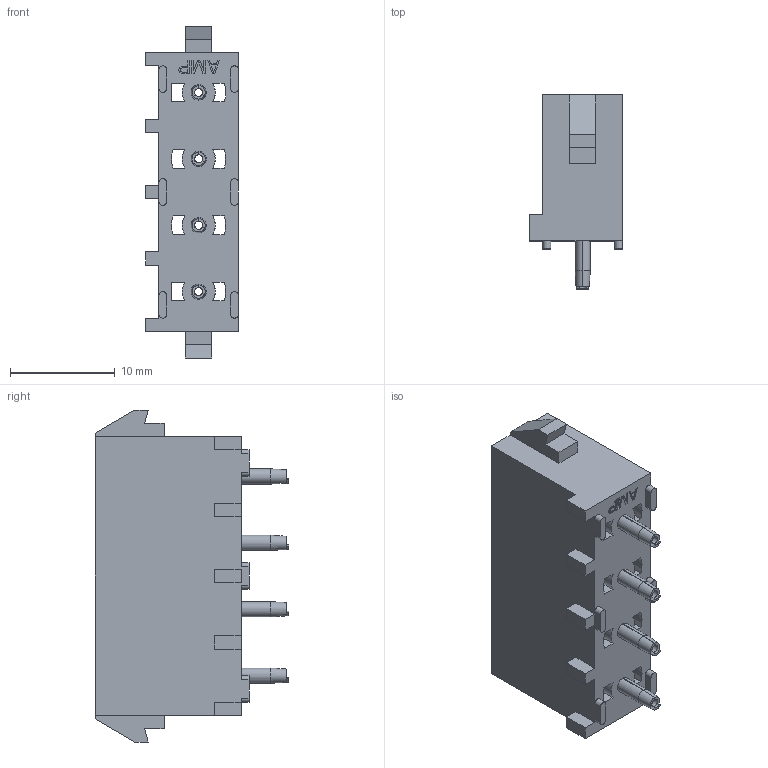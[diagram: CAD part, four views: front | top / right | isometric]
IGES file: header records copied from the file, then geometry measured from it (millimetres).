
Start section:  PTC IGES file: c-0770351-01-f-3d.igs
Global section: file name: c-0770351-01-f-3d.igs; native system: Pro/ENGINEER by Parametric Technology Corporation; preprocessor: 2005450; author: workeradm; organization: Unknown; date: 070904.155951; units: inch
Bounding box: 8.89 x 18.54 x 31.75 mm (x, y, z)
Surface area: 3018 mm2 (no closed solid volume)
Topology: 0 solids, 0 shells, 456 faces, 2532 edges, 2532 vertices
Faces by surface type: bspline 300, revolution 156
